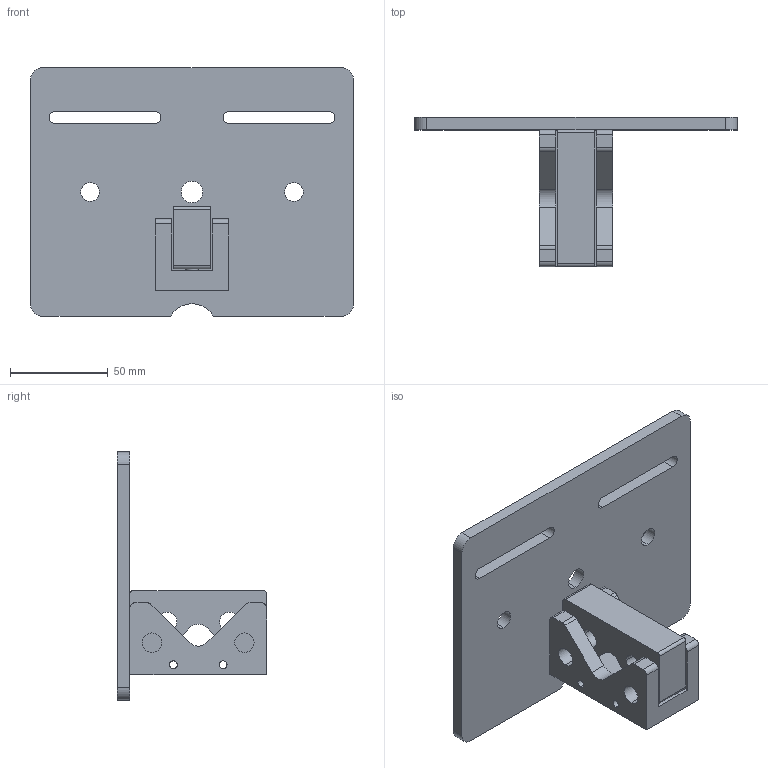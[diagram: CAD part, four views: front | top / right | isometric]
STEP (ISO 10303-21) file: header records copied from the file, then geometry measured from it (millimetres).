
FILE_DESCRIPTION (( 'STEP AP214' ), '1' );
FILE_NAME ('BC-2-SML.STEP', '2021-11-08T20:36:12', ( '' ), ( '' ), 'SwSTEP 2.0', 'SolidWorks 2020', '' );
FILE_SCHEMA (( 'AUTOMOTIVE_DESIGN' ));
Length unit declared in the file: inch
Products named in the file (6): Small Clamp - Male; socket head cap screw_ai_HX-SHCS 0.25-20x1x1-N; Small Clamp - Female; BC-2-SML; BC-2 Plate; flat head 100 screw_ai_CR-FHM1 0.19-32x0.5x0.5-N
Assembly tree (7 placements, depth 2):
  BC-2-SML
    BC-2 Plate
    Small Clamp - Female
    Small Clamp - Male
    socket head cap screw_ai_HX-SHCS 0.25-20x1x1-N  x2
    flat head 100 screw_ai_CR-FHM1 0.19-32x0.5x0.5-N  x2
Bounding box: 165.1 x 76.2 x 127 mm (x, y, z)
Volume: 204397.4 mm3; surface area: 73261.3 mm2
Topology: 7 solids, 7 shells, 214 faces, 526 edges, 330 vertices
Faces by surface type: plane 102, cylinder 84, cone 24, torus 4
Entity records: 5592 total; most frequent: CARTESIAN_POINT 1073, DIRECTION 938, ORIENTED_EDGE 848, EDGE_CURVE 424, AXIS2_PLACEMENT_3D 350, VERTEX_POINT 273, LINE 238, VECTOR 238
